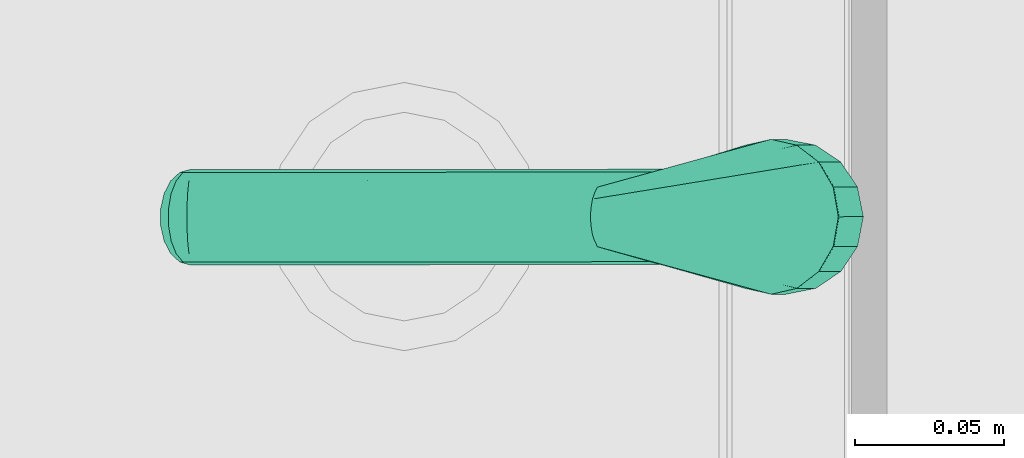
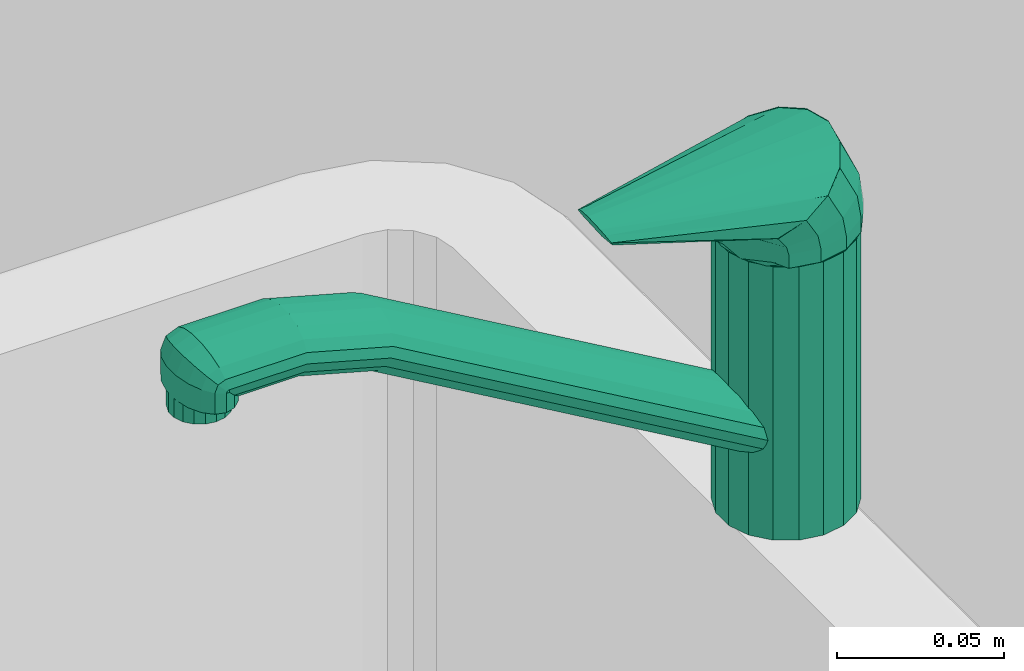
# One storey, part 116 of 194: 1 flow terminal.
"""IFC2X3 building model written with IfcOpenShell, lengths in millimetres."""

import ifcopenshell
import ifcopenshell.guid

model = None  # the IFC model being written
_history = None  # IfcOwnerHistory: only IFC2X3 demands one
_inside = {}  # id of a spatial element -> (the spatial element, [elements in it])
_under = {}  # id of a project, library or spatial element -> (it, [spatial elements below it])
_declared = {}  # id of a project -> (the project, [libraries it declares])
_typed = {}  # id of a type object -> (the type object, [elements of that type])
_made_of = {}  # id of a material, layer set ... -> (it, [elements and type objects made of it])


def new_model(schema):
    """Start an empty IFC model of exactly this schema.

    Asked for "IFC4X3", IfcOpenShell would pick the latest addendum, in which some entities
    have other attributes; the version numbers below select the first issue.
    IFC2X3 requires an IfcOwnerHistory on every rooted entity: one is made here for all.
    """
    global model, _history
    if schema == "IFC4X3":
        model = ifcopenshell.file(schema_version=(4, 3, 0, 0))
    else:
        model = ifcopenshell.file(schema=schema)
    _inside.clear()
    _under.clear()
    _declared.clear()
    _typed.clear()
    _made_of.clear()
    _history = None
    if model.schema == "IFC2X3":
        org = make("IfcOrganization", Name="unknown")
        user = make(
            "IfcPersonAndOrganization",
            ThePerson=make("IfcPerson", FamilyName="unknown"),
            TheOrganization=org,
        )
        app = make(
            "IfcApplication",
            ApplicationDeveloper=org,
            Version="unknown",
            ApplicationFullName="unknown",
            ApplicationIdentifier="unknown",
        )
        _history = make(
            "IfcOwnerHistory",
            OwningUser=user,
            OwningApplication=app,
            ChangeAction="ADDED",
            CreationDate=0,
        )
    return model


def make(cls, **values):
    """One entity of the class cls with the attributes given. An attribute that is None is left unset."""
    return model.create_entity(
        cls, **{name: value for name, value in values.items() if value is not None}
    )


def entity(cls, *values):
    """Any entity or typed value of the class cls, its attributes in the order of the schema. None: left unset."""
    e = model.create_entity(cls)
    for i, value in enumerate(values):
        if value is not None:
            e[i] = value
    return e


def rooted(cls, **values):
    """An entity with a GlobalId (a new one), such as an element, a storey or a relation."""
    return make(cls, GlobalId=ifcopenshell.guid.new(), OwnerHistory=_history, **values)


def si_unit(unit_type, name, prefix=None):
    """IfcSIUnit, for example si_unit("LENGTHUNIT", "METRE", prefix="MILLI")."""
    return make("IfcSIUnit", UnitType=unit_type, Prefix=prefix, Name=name)


def converted_unit(unit_type, name, factor, base, dimensions=None, offset=None):
    """IfcConversionBasedUnit, such as the inch: factor (a typed value) times the base unit."""
    return make(
        "IfcConversionBasedUnit"
        if offset is None
        else "IfcConversionBasedUnitWithOffset",
        ConversionOffset=offset,
        Dimensions=None
        if dimensions is None
        else entity("IfcDimensionalExponents", *dimensions),
        UnitType=unit_type,
        Name=name,
        ConversionFactor=make(
            "IfcMeasureWithUnit", ValueComponent=factor, UnitComponent=base
        ),
    )


def derived_unit(unit_type, elements):
    """IfcDerivedUnit: a product of units, each with its exponent."""
    return make(
        "IfcDerivedUnit",
        Elements=[
            make("IfcDerivedUnitElement", Unit=unit, Exponent=power)
            for unit, power in elements
        ],
        UnitType=unit_type,
    )


def money_unit(currency):
    """IfcMonetaryUnit."""
    return make("IfcMonetaryUnit", Currency=currency)


def assignment(units):
    """IfcUnitAssignment: the units of a project."""
    return None if units is None else make("IfcUnitAssignment", Units=units)


def point(xyz):
    """IfcCartesianPoint."""
    return None if xyz is None else make("IfcCartesianPoint", Coordinates=xyz)


def direction(xyz):
    """IfcDirection."""
    return None if xyz is None else make("IfcDirection", DirectionRatios=xyz)


def frame(location, z_axis=None, x_axis=None):
    """IfcAxis2Placement3D, a coordinate frame: its origin and axes. An axis left out is left unset."""
    return make(
        "IfcAxis2Placement3D",
        Location=point(location),
        Axis=direction(z_axis),
        RefDirection=direction(x_axis),
    )


def origin_with_axes():
    """The frame at (0, 0, 0) with the z axis (0, 0, 1) and the x axis (1, 0, 0) written out."""
    return frame((0.0, 0.0, 0.0), z_axis=(0.0, 0.0, 1.0), x_axis=(1.0, 0.0, 0.0))


def place(relative_to, where):
    """IfcLocalPlacement: puts the frame where relative to a parent placement (None: the world)."""
    return make(
        "IfcLocalPlacement", PlacementRelTo=relative_to, RelativePlacement=where
    )


def context(
    kind, dimensions, precision=None, world=None, true_north=None, identifier=None
):
    """IfcGeometricRepresentationContext, for example the 3D "Model" context."""
    return make(
        "IfcGeometricRepresentationContext",
        ContextIdentifier=identifier,
        ContextType=kind,
        CoordinateSpaceDimension=dimensions,
        Precision=precision,
        WorldCoordinateSystem=world,
        TrueNorth=true_north,
    )


def subcontext(parent, identifier, kind, view, scale=None):
    """IfcGeometricRepresentationSubContext, for example "Body" below "Model"."""
    return make(
        "IfcGeometricRepresentationSubContext",
        ContextIdentifier=identifier,
        ContextType=kind,
        ParentContext=parent,
        TargetScale=scale,
        TargetView=view,
    )


def project(units=None, contexts=None):
    """IfcProject with its units and contexts."""
    return rooted(
        "IfcProject",
        Name="project",
        RepresentationContexts=contexts,
        UnitsInContext=assignment(units),
    )


def spatial(cls, under=None, at=None, **own):
    """A site, building, storey or space (cls), placed at a placement, below another one or the project."""
    s = rooted(cls, ObjectPlacement=at, **own)
    if under is not None:
        _under.setdefault(under.id(), (under, []))[1].append(s)
    return s


def faces_of(points, faces, orient=None, outer=None):
    """IfcFace entities. A face is a list of loops; a loop is a list of indices into points, from 0.

    orient and outer hold one flag for each loop. By default every Orientation is true, the
    first loop of a face is its IfcFaceOuterBound and the others are IfcFaceBound.
    """
    made = []
    for i, loops in enumerate(faces):
        bounds = []
        for j, loop in enumerate(loops):
            is_outer = j == 0 if outer is None else outer[i][j]
            bounds.append(
                make(
                    "IfcFaceOuterBound" if is_outer else "IfcFaceBound",
                    Bound=make("IfcPolyLoop", Polygon=[points[k] for k in loop]),
                    Orientation=True if orient is None else orient[i][j],
                )
            )
        made.append(make("IfcFace", Bounds=bounds))
    return made


def open_shell(faces, orient=None, outer=None):
    """The faces of one IfcOpenShell. surface_model builds it on its shared points."""
    return ("IfcOpenShell", faces, orient, outer)


def faceted_brep(points, faces, orient=None, outer=None, voids=None):
    """IfcFacetedBrep: a solid bounded by flat faces; with voids (closed shells), ...WithVoids."""
    shared = [point(p) for p in points]
    hull = make("IfcClosedShell", CfsFaces=faces_of(shared, faces, orient, outer))
    if voids is None:
        return make("IfcFacetedBrep", Outer=hull)
    return make(
        "IfcFacetedBrepWithVoids",
        Outer=hull,
        Voids=[
            make(cls, CfsFaces=faces_of(shared, fs, o, b)) for cls, fs, o, b in voids
        ],
    )


def surface_model(cls, points, shells):
    """IfcFaceBasedSurfaceModel or IfcShellBasedSurfaceModel (cls): surfaces that need not close."""
    shared = [point(p) for p in points]
    made = [make(c, CfsFaces=faces_of(shared, fs, o, b)) for c, fs, o, b in shells]
    if cls == "IfcFaceBasedSurfaceModel":
        return make(cls, FbsmFaces=made)
    return make(cls, SbsmBoundary=made)


def shape(context_of_items, identifier, shape_type, items):
    """IfcShapeRepresentation: the items that make up one representation, for example the "Body"."""
    return make(
        "IfcShapeRepresentation",
        ContextOfItems=context_of_items,
        RepresentationIdentifier=identifier,
        RepresentationType=shape_type,
        Items=items,
    )


def source(mapping_origin, context_of_items, identifier, shape_type, items):
    """IfcRepresentationMap: a shape defined once, which mapped items show again and again."""
    return make(
        "IfcRepresentationMap",
        MappingOrigin=mapping_origin,
        MappedRepresentation=shape(context_of_items, identifier, shape_type, items),
    )


def transform(
    local_origin,
    x_axis=None,
    y_axis=None,
    z_axis=None,
    scale=None,
    scale2=None,
    scale3=None,
    uniform=True,
):
    """IfcCartesianTransformationOperator3D, or its non-uniform kind. x_axis, y_axis, z_axis: its Axis1, 2, 3."""
    if uniform:
        return make(
            "IfcCartesianTransformationOperator3D",
            Axis1=direction(x_axis),
            Axis2=direction(y_axis),
            LocalOrigin=point(local_origin),
            Scale=scale,
            Axis3=direction(z_axis),
        )
    return make(
        "IfcCartesianTransformationOperator3DnonUniform",
        Axis1=direction(x_axis),
        Axis2=direction(y_axis),
        LocalOrigin=point(local_origin),
        Scale=scale,
        Axis3=direction(z_axis),
        Scale2=scale2,
        Scale3=scale3,
    )


def mapped(mapping_source, mapping_target):
    """IfcMappedItem: shows the shape of a source again, moved by a transform."""
    return make(
        "IfcMappedItem", MappingSource=mapping_source, MappingTarget=mapping_target
    )


def made_of(thing, what):
    """Note that an element or type object is made of a material, layer set ...; save() writes the relation."""
    if what is not None:
        _made_of.setdefault(what.id(), (what, []))[1].append(thing)
    return thing


def type_object(cls, material=None, **own):
    """A type object (cls), such as IfcWallType, which elements share."""
    return made_of(rooted(cls, **own), material)


def element(
    cls,
    number,
    at=None,
    inside=None,
    cuts=None,
    type_object=None,
    material=None,
    context=None,
    identifier="Body",
    shape_type=None,
    held_by="IfcProductDefinitionShape",
    body=None,
    shapes=None,
    **own,
):
    """One element of the class cls, such as IfcWall. Its Tag is "e" and its number.

    at: its placement. inside: the storey or other place that contains it. cuts: it is an
    opening in that element (IfcRelVoidsElement). A single representation is given by context,
    identifier, shape_type and body (its items); several are given by shapes. held_by: the class
    of the entity that holds the representations. save() writes the other relations.
    """
    e = rooted(cls, Tag="e%d" % number, ObjectPlacement=at, **own)
    if body is not None:
        shapes = [shape(context, identifier, shape_type, body)]
    if shapes is not None:
        e.Representation = make(held_by, Representations=shapes)
    if inside is not None:
        _inside.setdefault(inside.id(), (inside, []))[1].append(e)
    if cuts is not None:
        rooted(
            "IfcRelVoidsElement", RelatingBuildingElement=cuts, RelatedOpeningElement=e
        )
    if type_object is not None:
        _typed.setdefault(type_object.id(), (type_object, []))[1].append(e)
    return made_of(e, material)


def aggregate(whole, parts):
    """IfcRelAggregates: a whole, such as a stair, and the parts it consists of."""
    return rooted("IfcRelAggregates", RelatingObject=whole, RelatedObjects=parts)


def save(model, path):
    """Write the relations noted so far, then the file.

    IfcRelAggregates (storeys below a building ...), IfcRelContainedInSpatialStructure (elements
    in a storey), IfcRelDefinesByType, IfcRelAssociatesMaterial and IfcRelDeclares: one each for
    every whole, place, type object, material and project.
    """
    for whole, parts in _under.values():
        aggregate(whole, parts)
    for where, things in _inside.values():
        rooted(
            "IfcRelContainedInSpatialStructure",
            RelatedElements=things,
            RelatingStructure=where,
        )
    for kind, things in _typed.values():
        rooted("IfcRelDefinesByType", RelatedObjects=things, RelatingType=kind)
    for what, things in _made_of.values():
        rooted("IfcRelAssociatesMaterial", RelatedObjects=things, RelatingMaterial=what)
    for by, libraries in _declared.values():
        rooted("IfcRelDeclares", RelatingContext=by, RelatedDefinitions=libraries)
    model.write(path)


model = new_model("IFC2X3")

# Units and contexts
model_context = context("Model", 3, precision=1e-05, world=origin_with_axes(), true_north=direction((0.0, 1.0)))
body_context = subcontext(model_context, "Body", "Model", "MODEL_VIEW")
ifc_project = project(units=[si_unit("LENGTHUNIT", "METRE", prefix="MILLI"), si_unit("AREAUNIT", "SQUARE_METRE"), si_unit("VOLUMEUNIT", "CUBIC_METRE"), converted_unit("PLANEANGLEUNIT", "DEGREE", entity("IfcPlaneAngleMeasure", 0.0174532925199), si_unit("PLANEANGLEUNIT", "RADIAN"), dimensions=[0, 0, 0, 0, 0, 0, 0]), si_unit("SOLIDANGLEUNIT", "STERADIAN"), money_unit("EUR"), converted_unit("TIMEUNIT", "Year", entity("IfcTimeMeasure", 31556926.0), si_unit("TIMEUNIT", "SECOND"), dimensions=[0, 0, 1, 0, 0, 0, 0]), si_unit("MASSUNIT", "GRAM", prefix="KILO"), si_unit("THERMODYNAMICTEMPERATUREUNIT", "DEGREE_CELSIUS"), si_unit("LUMINOUSINTENSITYUNIT", "LUMEN"), si_unit("ENERGYUNIT", "JOULE", prefix="MEGA"), derived_unit("THERMALCONDUCTANCEUNIT", [(si_unit("POWERUNIT", "WATT"), 1), (si_unit("LENGTHUNIT", "METRE"), -1), (si_unit("THERMODYNAMICTEMPERATUREUNIT", "KELVIN"), -1)]), derived_unit("SPECIFICHEATCAPACITYUNIT", [(si_unit("ENERGYUNIT", "JOULE"), 1), (si_unit("MASSUNIT", "GRAM", prefix="KILO"), -1), (si_unit("THERMODYNAMICTEMPERATUREUNIT", "KELVIN"), -1)]), derived_unit("MASSDENSITYUNIT", [(si_unit("MASSUNIT", "GRAM", prefix="KILO"), 1), (si_unit("VOLUMEUNIT", "CUBIC_METRE"), -1)])], contexts=[model_context])

# Site, building, storey
site_placement = place(None, origin_with_axes())
site = spatial("IfcSite", under=ifc_project, at=site_placement, Name="Site", CompositionType="ELEMENT")
building_placement = place(site_placement, origin_with_axes())
building = spatial("IfcBuilding", under=site, at=building_placement, Name="Building", CompositionType="ELEMENT")
storey_placement = place(building_placement, frame((0.0, 0.0, 3000.0), z_axis=(0.0, 0.0, 1.0), x_axis=(1.0, 0.0, 0.0)))
storey = spatial("IfcBuildingStorey", under=building, at=storey_placement, Name="2 KORRUS", CompositionType="ELEMENT", Elevation=3000.0)

# Flow terminal
sanitary_terminal_type = type_object("IfcSanitaryTerminalType", Name="Tap 22", PredefinedType="NOTDEFINED")
shared_shape = source(origin_with_axes(), body_context, "Body", "SurfaceModel", [
    faceted_brep([(21.1430839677, -7.69545322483, 1000.0), (17.2359999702, -14.4627212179, 1000.0), (11.25, -19.4855715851, 1000.0), (3.90708399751, -22.1581744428, 1000.0), (-3.90708399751, -22.1581744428, 1000.0), (-11.25, -19.4855715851, 1000.0), (-17.2359999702, -14.4627212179, 1000.0), (-21.1430839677, -7.69545322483, 1000.0), (-22.5, 0.0, 1000.0), (-21.1430839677, 7.69545322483, 1000.0), (-17.2359999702, 14.4627212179, 1000.0), (-11.25, 19.4855715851, 1000.0), (-3.90708399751, 22.1581744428, 1000.0), (3.90708399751, 22.1581744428, 1000.0), (11.25, 19.4855715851, 1000.0), (17.2359999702, 14.4627212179, 1000.0), (21.1430839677, 7.69545322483, 1000.0), (22.5, 0.0, 1000.0), (21.1430839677, -7.69545322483, 1010.0), (17.2359999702, -14.4627212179, 1010.0), (11.25, -19.4855715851, 1010.0), (3.90708399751, -22.1581744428, 1010.0), (-3.90708399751, -22.1581744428, 1010.0), (-11.25, -19.4855715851, 1010.0), (-17.2359999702, -14.4627212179, 1010.0), (-21.1430839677, -7.69545322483, 1010.0), (-22.5, 0.0, 1010.0), (-21.1430839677, 7.69545322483, 1010.0), (-17.2359999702, 14.4627212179, 1010.0), (-11.25, 19.4855715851, 1010.0), (-3.90708399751, 22.1581744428, 1010.0), (3.90708399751, 22.1581744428, 1010.0), (11.25, 19.4855715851, 1010.0), (17.2359999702, 14.4627212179, 1010.0), (21.1430839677, 7.69545322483, 1010.0), (22.5, 0.0, 1010.0)], [[[0, 1, 2, 3, 4, 5, 6, 7, 8, 9, 10, 11, 12, 13, 14, 15, 16, 17]], [[1, 0, 18, 19]], [[2, 1, 19, 20]], [[3, 2, 20, 21]], [[4, 3, 21, 22]], [[5, 4, 22, 23]], [[6, 5, 23, 24]], [[7, 6, 24, 25]], [[8, 7, 25, 26]], [[9, 8, 26, 27]], [[10, 9, 27, 28]], [[11, 10, 28, 29]], [[12, 11, 29, 30]], [[13, 12, 30, 31]], [[14, 13, 31, 32]], [[15, 14, 32, 33]], [[16, 15, 33, 34]], [[17, 16, 34, 35]], [[0, 17, 35, 18]], [[18, 35, 34, 33, 32, 31, 30, 29, 28, 27, 26, 25, 24, 23, 22, 21, 20, 19]]]),
    faceted_brep([(21.1430839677, -7.69545322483, 1010.0), (17.2359999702, -14.4627212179, 1010.0), (11.25, -19.4855715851, 1010.0), (3.90708399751, -22.1581744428, 1010.0), (-3.90708399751, -22.1581744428, 1010.0), (-11.25, -19.4855715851, 1010.0), (-17.2359999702, -14.4627212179, 1010.0), (-21.1430839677, -7.69545322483, 1010.0), (-22.5, 0.0, 1010.0), (-21.1430839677, 7.69545322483, 1010.0), (-17.2359999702, 14.4627212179, 1010.0), (-11.25, 19.4855715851, 1010.0), (-3.90708399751, 22.1581744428, 1010.0), (3.90708399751, 22.1581744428, 1010.0), (11.25, 19.4855715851, 1010.0), (17.2359999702, 14.4627212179, 1010.0), (21.1430839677, 7.69545322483, 1010.0), (22.5, 0.0, 1010.0), (21.1430839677, -7.69545322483, 1055.0), (17.2359999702, -14.4627212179, 1055.0), (11.25, -19.4855715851, 1055.0), (3.90708399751, -22.1581744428, 1055.0), (-3.90708399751, -22.1581744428, 1055.0), (-11.25, -19.4855715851, 1055.0), (-17.2359999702, -14.4627212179, 1055.0), (-21.1430839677, -7.69545322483, 1055.0), (-22.5, 0.0, 1055.0), (-21.1430839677, 7.69545322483, 1055.0), (-17.2359999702, 14.4627212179, 1055.0), (-11.25, 19.4855715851, 1055.0), (-3.90708399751, 22.1581744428, 1055.0), (3.90708399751, 22.1581744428, 1055.0), (11.25, 19.4855715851, 1055.0), (17.2359999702, 14.4627212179, 1055.0), (21.1430839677, 7.69545322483, 1055.0), (22.5, 0.0, 1055.0)], [[[0, 1, 2, 3, 4, 5, 6, 7, 8, 9, 10, 11, 12, 13, 14, 15, 16, 17]], [[1, 0, 18, 19]], [[2, 1, 19, 20]], [[3, 2, 20, 21]], [[4, 3, 21, 22]], [[5, 4, 22, 23]], [[6, 5, 23, 24]], [[7, 6, 24, 25]], [[8, 7, 25, 26]], [[9, 8, 26, 27]], [[10, 9, 27, 28]], [[11, 10, 28, 29]], [[12, 11, 29, 30]], [[13, 12, 30, 31]], [[14, 13, 31, 32]], [[15, 14, 32, 33]], [[16, 15, 33, 34]], [[17, 16, 34, 35]], [[0, 17, 35, 18]], [[18, 35, 34, 33, 32, 31, 30, 29, 28, 27, 26, 25, 24, 23, 22, 21, 20, 19]]]),
    faceted_brep([(21.1430839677, -7.69545322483, 1055.0), (17.2359999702, -14.4627212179, 1055.0), (11.25, -19.4855715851, 1055.0), (3.90708399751, -22.1581744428, 1055.0), (-3.90708399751, -22.1581744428, 1055.0), (-11.25, -19.4855715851, 1055.0), (-17.2359999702, -14.4627212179, 1055.0), (-21.1430839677, -7.69545322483, 1055.0), (-22.5, 0.0, 1055.0), (-21.1430839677, 7.69545322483, 1055.0), (-17.2359999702, 14.4627212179, 1055.0), (-11.25, 19.4855715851, 1055.0), (-3.90708399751, 22.1581744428, 1055.0), (3.90708399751, 22.1581744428, 1055.0), (11.25, 19.4855715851, 1055.0), (17.2359999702, 14.4627212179, 1055.0), (21.1430839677, 7.69545322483, 1055.0), (22.5, 0.0, 1055.0), (21.1430839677, -7.69545322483, 1100.0), (17.2359999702, -14.4627212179, 1100.0), (11.25, -19.4855715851, 1100.0), (3.90708399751, -22.1581744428, 1100.0), (-3.90708399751, -22.1581744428, 1100.0), (-11.25, -19.4855715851, 1100.0), (-17.2359999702, -14.4627212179, 1100.0), (-21.1430839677, -7.69545322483, 1100.0), (-22.5, 0.0, 1100.0), (-21.1430839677, 7.69545322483, 1100.0), (-17.2359999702, 14.4627212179, 1100.0), (-11.25, 19.4855715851, 1100.0), (-3.90708399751, 22.1581744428, 1100.0), (3.90708399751, 22.1581744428, 1100.0), (11.25, 19.4855715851, 1100.0), (17.2359999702, 14.4627212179, 1100.0), (21.1430839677, 7.69545322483, 1100.0), (22.5, 0.0, 1100.0)], [[[0, 1, 2, 3, 4, 5, 6, 7, 8, 9, 10, 11, 12, 13, 14, 15, 16, 17]], [[1, 0, 18, 19]], [[2, 1, 19, 20]], [[3, 2, 20, 21]], [[4, 3, 21, 22]], [[5, 4, 22, 23]], [[6, 5, 23, 24]], [[7, 6, 24, 25]], [[8, 7, 25, 26]], [[9, 8, 26, 27]], [[10, 9, 27, 28]], [[11, 10, 28, 29]], [[12, 11, 29, 30]], [[13, 12, 30, 31]], [[14, 13, 31, 32]], [[15, 14, 32, 33]], [[16, 15, 33, 34]], [[17, 16, 34, 35]], [[0, 17, 35, 18]], [[18, 35, 34, 33, 32, 31, 30, 29, 28, 27, 26, 25, 24, 23, 22, 21, 20, 19]]]),
    surface_model("IfcShellBasedSurfaceModel", [(20.7872894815, -8.61037722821, 1100.0), (22.5, 0.0, 1100.0), (26.0, -3.0, 1104.5), (24.0208678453, -12.9497692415, 1104.5), (20.7872894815, 8.61037722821, 1100.0), (24.0208678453, 6.94976924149, 1104.5), (15.9099025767, -15.9099025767, 1100.0), (24.0208678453, -12.9497692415, 1104.5), (15.9099025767, 15.9099025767, 1100.0), (18.3847763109, 15.3847763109, 1104.5), (8.61037722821, -20.7872894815, 1100.0), (8.61037722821, 20.7872894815, 1100.0), (9.94976924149, 21.0208678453, 1104.5), (0.0, -25.1, 1104.5), (0.0, 22.5, 1100.0), (0.0, 23.0, 1104.5), (0.0, -22.5, 1100.0), (-8.61037722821, 20.7872894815, 1100.0), (-9.94976924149, 21.0208678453, 1104.5), (-8.61037722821, -20.7872894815, 1100.0), (-15.9099025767, 15.9099025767, 1100.0), (-18.3847763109, 15.3847763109, 1104.5), (-15.9099025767, -15.9099025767, 1100.0), (-20.7872894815, 8.61037722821, 1100.0), (-24.0208678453, 6.94976924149, 1104.5), (-24.0208678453, -12.9497692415, 1104.5), (-22.5, 0.0, 1100.0), (-26.0, -3.0, 1104.5), (-20.7872894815, -8.61037722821, 1100.0)], [open_shell([[[0, 1, 2, 3]], [[1, 4, 5, 2]], [[6, 0, 3, 7]], [[4, 8, 9, 5]], [[10, 6, 7]], [[8, 11, 12, 9]], [[10, 7, 13]], [[11, 14, 15, 12]], [[16, 10, 13]], [[14, 17, 18, 15]], [[19, 16, 13]], [[17, 20, 21, 18]], [[22, 19, 13]], [[20, 23, 24, 21]], [[22, 13, 25]], [[23, 26, 27, 24]], [[28, 22, 25]], [[26, 28, 25, 27]]])]),
    surface_model("IfcShellBasedSurfaceModel", [(24.0208678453, -12.9497692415, 1103.0), (26.0, -3.0, 1108.0), (24.0208678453, -12.9497692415, 1108.0), (26.0, -3.0, 1103.0), (26.0, -4.0, 1113.0), (24.0208678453, -12.9497692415, 1103.0), (24.0208678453, 6.94976924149, 1108.0), (24.0208678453, -13.7565514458, 1111.04868971), (24.0208678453, 5.75655144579, 1114.95131029), (24.0208678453, -12.9497692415, 1108.0), (24.0208678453, 6.94976924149, 1103.0), (26.0, -8.0, 1120.0), (24.0208678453, 0.638818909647, 1124.93646795), (0.0, -25.1, 1103.0), (18.3847763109, 15.3847763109, 1108.0), (18.3847763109, 14.0277563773, 1116.60555128), (24.0208678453, -16.6388189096, 1115.06353205), (24.0208678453, -13.7565514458, 1111.04868971), (18.3847763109, 7.96245595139, 1129.1214034), (0.0, -25.1, 1108.0), (18.3847763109, 15.3847763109, 1103.0), (-24.0208678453, -12.9497692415, 1103.0), (9.94976924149, 21.0208678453, 1108.0), (9.94976924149, 19.5543988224, 1117.71087976), (9.94976924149, 12.8559537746, 1131.91768787), (24.0208678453, -16.6388189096, 1115.06353205), (0.0, -25.6708329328, 1108.66583341), (-24.0208678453, -12.9497692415, 1108.0), (9.94976924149, 21.0208678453, 1103.0), (-26.0, -3.0, 1103.0), (0.0, 23.0, 1108.0), (0.0, 21.495097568, 1118.09901951), (0.0, 14.5743216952, 1132.8996124), (0.0, -27.188173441, 1109.03532946), (-24.0208678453, -13.7565514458, 1111.04868971), (-26.0, -3.0, 1108.0), (0.0, 23.0, 1103.0), (-24.0208678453, 6.94976924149, 1103.0), (-9.94976924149, 21.0208678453, 1108.0), (-9.94976924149, 19.5543988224, 1117.71087976), (-9.94976924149, 12.8559537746, 1131.91768787), (-24.0208678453, -16.6388189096, 1115.06353205), (-26.0, -4.0, 1113.0), (-24.0208678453, 6.94976924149, 1108.0), (-9.94976924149, 21.0208678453, 1103.0), (-18.3847763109, 15.3847763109, 1103.0), (-18.3847763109, 15.3847763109, 1108.0), (-18.3847763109, 14.0277563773, 1116.60555128), (-18.3847763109, 7.96245595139, 1129.1214034), (-26.0, -8.0, 1120.0), (-24.0208678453, 5.75655144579, 1114.95131029), (-24.0208678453, 0.638818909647, 1124.93646795)], [open_shell([[[0, 1, 2]], [[1, 0, 3]], [[4, 2, 1]], [[2, 5, 0]], [[3, 6, 1]], [[2, 4, 7]], [[1, 8, 4]], [[5, 2, 9]], [[6, 3, 10]], [[8, 1, 6]], [[11, 7, 4]], [[7, 9, 2]], [[12, 4, 8]], [[9, 13, 5]], [[10, 14, 6]], [[6, 15, 8]], [[7, 11, 16]], [[4, 12, 11]], [[9, 7, 17]], [[8, 18, 12]], [[13, 9, 19]], [[14, 10, 20]], [[15, 6, 14]], [[18, 8, 15]], [[16, 17, 7]], [[17, 19, 9]], [[19, 21, 13]], [[20, 22, 14]], [[14, 23, 15]], [[15, 24, 18]], [[17, 16, 25]], [[19, 17, 26]], [[21, 19, 27]], [[22, 20, 28]], [[23, 14, 22]], [[24, 15, 23]], [[25, 26, 17]], [[26, 27, 19]], [[27, 29, 21]], [[28, 30, 22]], [[22, 31, 23]], [[23, 32, 24]], [[26, 25, 33]], [[27, 26, 34]], [[29, 27, 35]], [[30, 28, 36]], [[31, 22, 30]], [[32, 23, 31]], [[33, 34, 26]], [[34, 35, 27]], [[35, 37, 29]], [[36, 38, 30]], [[30, 39, 31]], [[31, 40, 32]], [[34, 33, 41]], [[35, 34, 42]], [[37, 35, 43]], [[38, 36, 44]], [[39, 30, 38]], [[40, 31, 39]], [[41, 42, 34]], [[42, 43, 35]], [[43, 45, 37]], [[44, 46, 38]], [[38, 47, 39]], [[39, 48, 40]], [[42, 41, 49]], [[43, 42, 50]], [[45, 43, 46]], [[46, 44, 45]], [[47, 38, 46]], [[48, 39, 47]], [[49, 50, 42]], [[50, 46, 43]], [[46, 50, 47]], [[47, 51, 48]], [[50, 49, 51]], [[51, 47, 50]]])]),
    surface_model("IfcShellBasedSurfaceModel", [(24.0208678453, -16.7440274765, 1115.25238044), (26.0, -8.0, 1120.0), (10.0, -66.2556184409, 1122.50657537), (8.0, -67.2099359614, 1124.26420959), (9.0, -65.3013009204, 1120.74894114), (24.0208678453, 0.744027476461, 1124.74761956), (6.0, -67.9256741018, 1125.58243526), (3.0, -68.4028328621, 1126.46125237), (0.0, -68.6414122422, 1126.90066093), (-3.0, -68.4028328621, 1126.46125237), (-6.0, -67.9256741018, 1125.58243526), (-8.0, -67.2099359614, 1124.26420959), (-10.0, -66.2556184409, 1122.50657537), (-9.0, -65.3013009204, 1120.74894114), (0.0, -63.8698246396, 1118.1124898), (0.0, -27.4218581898, 1109.4547914), (18.3847763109, 8.15685603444, 1128.77245707), (9.94976924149, 13.1099497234, 1131.46176752), (0.0, 14.8492449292, 1132.40612777), (-9.94976924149, 13.1099497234, 1131.46176752), (-18.3847763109, 8.15685603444, 1128.77245707), (-24.0208678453, 0.744027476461, 1124.74761956), (-26.0, -8.0, 1120.0), (-24.0208678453, -16.7440274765, 1115.25238044)], [open_shell([[[0, 1, 2]], [[1, 3, 2]], [[0, 2, 4]], [[1, 5, 3]], [[4, 2, 3, 6, 7, 8, 9, 10, 11, 12, 13, 14]], [[15, 0, 4]], [[5, 6, 3]], [[16, 7, 6]], [[17, 8, 7]], [[18, 9, 8]], [[19, 10, 9]], [[20, 11, 10]], [[21, 12, 11]], [[22, 13, 12]], [[23, 14, 13]], [[15, 4, 14]], [[5, 16, 6]], [[16, 17, 7]], [[17, 18, 8]], [[18, 19, 9]], [[19, 20, 10]], [[20, 21, 11]], [[21, 22, 12]], [[22, 23, 13]], [[23, 15, 14]]])]),
    surface_model("IfcShellBasedSurfaceModel", [(16.0, -15.0, 1035.8), (15.0350819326, -13.350271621, 1038.79711945), (15.0350819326, -144.663324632, 1115.17921593), (16.0, -146.0, 1112.0), (12.2567110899, -11.8995248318, 1041.43274206), (12.2567110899, -143.487872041, 1117.97497151), (15.0350819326, -174.536897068, 1123.42020143), (16.0, -175.0, 1120.0), (15.0350819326, -16.649728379, 1032.80288055), (15.0350819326, -147.336675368, 1108.82078407), (8.0, -10.8227411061, 1043.38897285), (8.0, -142.615419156, 1120.05005733), (12.2567110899, -174.129651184, 1126.4278761), (15.0350819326, -202.702022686, 1123.42020143), (16.0, -202.0, 1120.0), (15.0350819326, -175.463102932, 1116.57979857), (12.2567110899, -18.1004751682, 1030.16725794), (12.2567110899, -148.512127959, 1106.02502849), (2.77837084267, -10.2497964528, 1044.42986151), (2.77837084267, -142.151196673, 1121.15418744), (8.0, -173.827382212, 1128.66025404), (12.2567110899, -203.319371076, 1126.4278761), (15.0350819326, -205.304747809, 1122.30474781), (16.0, -202.7, 1119.7), (15.0350819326, -201.297977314, 1116.57979857), (12.2567110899, -175.870348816, 1113.5721239), (8.0, -19.1772588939, 1028.21102715), (8.0, -149.384580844, 1103.94994267), (-2.77837084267, -10.2497964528, 1044.42986151), (-2.77837084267, -142.151196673, 1121.15418744), (2.77837084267, -173.666548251, 1129.84807753), (8.0, -203.777583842, 1128.66025404), (12.2567110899, -207.595324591, 1124.59532459), (15.0350819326, -206.420201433, 1119.70202269), (16.0, -203.0, 1119.0), (15.0350819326, -200.095252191, 1117.09525219), (12.2567110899, -200.680628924, 1113.5721239), (8.0, -176.172617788, 1111.33974596), (2.77837084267, -19.7502035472, 1027.17013849), (2.77837084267, -149.848803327, 1102.84581256), (-8.0, -10.8227411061, 1043.38897285), (-8.0, -142.615419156, 1120.05005733), (-2.77837084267, -173.666548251, 1129.84807753), (2.77837084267, -204.021393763, 1129.84807753), (8.0, -209.295452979, 1126.29545298), (12.2567110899, -209.427876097, 1120.31937108), (15.0350819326, -206.420201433, 1112.0), (16.0, -203.0, 1112.0), (15.0350819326, -199.579798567, 1118.29797731), (12.2567110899, -197.804675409, 1114.80467541), (8.0, -200.222416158, 1111.33974596), (2.77837084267, -176.333451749, 1110.15192247), (-2.77837084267, -19.7502035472, 1027.17013849), (-2.77837084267, -149.848803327, 1102.84581256), (-12.2567110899, -11.8995248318, 1041.43274206), (-12.2567110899, -143.487872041, 1117.97497151), (-8.0, -173.827382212, 1128.66025404), (-2.77837084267, -204.021393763, 1129.84807753), (2.77837084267, -210.2000724, 1127.2000724), (8.0, -211.660254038, 1120.77758384), (12.2567110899, -209.427876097, 1112.0), (8.0, -211.660254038, 1112.0), (2.77837084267, -212.84807753, 1112.0), (-2.77837084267, -212.84807753, 1112.0), (-8.0, -211.660254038, 1112.0), (-12.2567110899, -209.427876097, 1112.0), (-15.0350819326, -206.420201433, 1112.0), (-16.0, -203.0, 1112.0), (-15.0350819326, -199.579798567, 1112.0), (-12.2567110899, -196.572123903, 1112.0), (-8.0, -194.339745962, 1112.0), (-2.77837084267, -193.15192247, 1112.0), (2.77837084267, -193.15192247, 1112.0), (8.0, -194.339745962, 1112.0), (12.2567110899, -196.572123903, 1112.0), (15.0350819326, -199.579798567, 1112.0), (12.2567110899, -196.572123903, 1117.68062892), (8.0, -196.104547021, 1113.10454702), (2.77837084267, -199.978606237, 1110.15192247), (-2.77837084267, -176.333451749, 1110.15192247), (-8.0, -19.1772588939, 1028.21102715), (-8.0, -149.384580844, 1103.94994267), (-15.0350819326, -13.350271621, 1038.79711945), (-15.0350819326, -144.663324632, 1115.17921593), (-12.2567110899, -174.129651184, 1126.4278761), (-8.0, -203.777583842, 1128.66025404), (-2.77837084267, -210.2000724, 1127.2000724), (2.77837084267, -212.84807753, 1121.02139376), (-2.77837084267, -212.84807753, 1121.02139376), (-8.0, -211.660254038, 1120.77758384), (-12.2567110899, -209.427876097, 1120.31937108), (-15.0350819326, -206.420201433, 1119.70202269), (-16.0, -203.0, 1119.0), (-15.0350819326, -199.579798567, 1118.29797731), (-12.2567110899, -196.572123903, 1117.68062892), (-8.0, -194.339745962, 1117.22241616), (-2.77837084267, -193.15192247, 1116.97860624), (2.77837084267, -193.15192247, 1116.97860624), (8.0, -194.339745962, 1117.22241616), (2.77837084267, -195.1999276, 1112.1999276), (-2.77837084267, -199.978606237, 1110.15192247), (-8.0, -176.172617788, 1111.33974596), (-12.2567110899, -18.1004751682, 1030.16725794), (-12.2567110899, -148.512127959, 1106.02502849), (-16.0, -15.0, 1035.8), (-16.0, -146.0, 1112.0), (-15.0350819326, -174.536897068, 1123.42020143), (-12.2567110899, -203.319371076, 1126.4278761), (-8.0, -209.295452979, 1126.29545298), (-12.2567110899, -207.595324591, 1124.59532459), (-15.0350819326, -205.304747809, 1122.30474781), (-16.0, -202.7, 1119.7), (-15.0350819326, -200.095252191, 1117.09525219), (-12.2567110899, -197.804675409, 1114.80467541), (-8.0, -196.104547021, 1113.10454702), (-2.77837084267, -195.1999276, 1112.1999276), (-8.0, -200.222416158, 1111.33974596), (-12.2567110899, -175.870348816, 1113.5721239), (-15.0350819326, -16.649728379, 1032.80288055), (-15.0350819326, -147.336675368, 1108.82078407), (-16.0, -175.0, 1120.0), (-15.0350819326, -202.702022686, 1123.42020143), (-16.0, -202.0, 1120.0), (-15.0350819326, -201.297977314, 1116.57979857), (-12.2567110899, -200.680628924, 1113.5721239), (-15.0350819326, -175.463102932, 1116.57979857)], [open_shell([[[0, 1, 2, 3]], [[1, 4, 5, 2]], [[3, 2, 6, 7]], [[8, 0, 3, 9]], [[4, 10, 11, 5]], [[2, 5, 12, 6]], [[7, 6, 13, 14]], [[9, 3, 7, 15]], [[16, 8, 9, 17]], [[10, 18, 19, 11]], [[5, 11, 20, 12]], [[6, 12, 21, 13]], [[14, 13, 22, 23]], [[15, 7, 14, 24]], [[17, 9, 15, 25]], [[26, 16, 17, 27]], [[18, 28, 29, 19]], [[11, 19, 30, 20]], [[12, 20, 31, 21]], [[13, 21, 32, 22]], [[23, 22, 33, 34]], [[24, 14, 23, 35]], [[25, 15, 24, 36]], [[27, 17, 25, 37]], [[38, 26, 27, 39]], [[28, 40, 41, 29]], [[19, 29, 42, 30]], [[20, 30, 43, 31]], [[21, 31, 44, 32]], [[22, 32, 45, 33]], [[34, 33, 46, 47]], [[35, 23, 34, 48]], [[36, 24, 35, 49]], [[37, 25, 36, 50]], [[39, 27, 37, 51]], [[52, 38, 39, 53]], [[40, 54, 55, 41]], [[29, 41, 56, 42]], [[30, 42, 57, 43]], [[31, 43, 58, 44]], [[32, 44, 59, 45]], [[33, 45, 60, 46]], [[47, 46, 60, 61, 62, 63, 64, 65, 66, 67, 68, 69, 70, 71, 72, 73, 74, 75]], [[48, 34, 47, 75]], [[49, 35, 48, 76]], [[50, 36, 49, 77]], [[51, 37, 50, 78]], [[53, 39, 51, 79]], [[80, 52, 53, 81]], [[54, 82, 83, 55]], [[41, 55, 84, 56]], [[42, 56, 85, 57]], [[43, 57, 86, 58]], [[44, 58, 87, 59]], [[45, 59, 61, 60]], [[59, 87, 62, 61]], [[87, 88, 63, 62]], [[88, 89, 64, 63]], [[89, 90, 65, 64]], [[90, 91, 66, 65]], [[91, 92, 67, 66]], [[92, 93, 68, 67]], [[93, 94, 69, 68]], [[94, 95, 70, 69]], [[95, 96, 71, 70]], [[96, 97, 72, 71]], [[97, 98, 73, 72]], [[98, 76, 74, 73]], [[76, 48, 75, 74]], [[77, 49, 76, 98]], [[78, 50, 77, 99]], [[79, 51, 78, 100]], [[81, 53, 79, 101]], [[102, 80, 81, 103]], [[82, 104, 105, 83]], [[55, 83, 106, 84]], [[56, 84, 107, 85]], [[57, 85, 108, 86]], [[58, 86, 88, 87]], [[86, 108, 89, 88]], [[108, 109, 90, 89]], [[109, 110, 91, 90]], [[110, 111, 92, 91]], [[111, 112, 93, 92]], [[112, 113, 94, 93]], [[113, 114, 95, 94]], [[114, 115, 96, 95]], [[115, 99, 97, 96]], [[99, 77, 98, 97]], [[100, 78, 99, 115]], [[101, 79, 100, 116]], [[103, 81, 101, 117]], [[118, 102, 103, 119]], [[104, 118, 119, 105]], [[83, 105, 120, 106]], [[84, 106, 121, 107]], [[85, 107, 109, 108]], [[107, 121, 110, 109]], [[121, 122, 111, 110]], [[122, 123, 112, 111]], [[123, 124, 113, 112]], [[124, 116, 114, 113]], [[116, 100, 115, 114]], [[117, 101, 116, 124]], [[119, 103, 117, 125]], [[105, 119, 125, 120]], [[106, 120, 122, 121]], [[120, 125, 123, 122]], [[125, 117, 124, 123]]])]),
    faceted_brep([(9.39692620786, -199.579798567, 1112.0), (7.66044443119, -196.572123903, 1112.0), (5.0, -194.339745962, 1112.0), (1.73648177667, -193.15192247, 1112.0), (-1.73648177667, -193.15192247, 1112.0), (-5.0, -194.339745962, 1112.0), (-7.66044443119, -196.572123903, 1112.0), (-9.39692620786, -199.579798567, 1112.0), (-10.0, -203.0, 1112.0), (-9.39692620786, -206.420201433, 1112.0), (-7.66044443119, -209.427876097, 1112.0), (-5.0, -211.660254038, 1112.0), (-1.73648177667, -212.84807753, 1112.0), (1.73648177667, -212.84807753, 1112.0), (5.0, -211.660254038, 1112.0), (7.66044443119, -209.427876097, 1112.0), (9.39692620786, -206.420201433, 1112.0), (10.0, -203.0, 1112.0), (9.39692620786, -199.579798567, 1105.0), (7.66044443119, -196.572123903, 1105.0), (5.0, -194.339745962, 1105.0), (1.73648177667, -193.15192247, 1105.0), (-1.73648177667, -193.15192247, 1105.0), (-5.0, -194.339745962, 1105.0), (-7.66044443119, -196.572123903, 1105.0), (-9.39692620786, -199.579798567, 1105.0), (-10.0, -203.0, 1105.0), (-9.39692620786, -206.420201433, 1105.0), (-7.66044443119, -209.427876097, 1105.0), (-5.0, -211.660254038, 1105.0), (-1.73648177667, -212.84807753, 1105.0), (1.73648177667, -212.84807753, 1105.0), (5.0, -211.660254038, 1105.0), (7.66044443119, -209.427876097, 1105.0), (9.39692620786, -206.420201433, 1105.0), (10.0, -203.0, 1105.0)], [[[0, 1, 2, 3, 4, 5, 6, 7, 8, 9, 10, 11, 12, 13, 14, 15, 16, 17]], [[1, 0, 18, 19]], [[2, 1, 19, 20]], [[3, 2, 20, 21]], [[4, 3, 21, 22]], [[5, 4, 22, 23]], [[6, 5, 23, 24]], [[7, 6, 24, 25]], [[8, 7, 25, 26]], [[9, 8, 26, 27]], [[10, 9, 27, 28]], [[11, 10, 28, 29]], [[12, 11, 29, 30]], [[13, 12, 30, 31]], [[14, 13, 31, 32]], [[15, 14, 32, 33]], [[16, 15, 33, 34]], [[17, 16, 34, 35]], [[0, 17, 35, 18]], [[18, 35, 34, 33, 32, 31, 30, 29, 28, 27, 26, 25, 24, 23, 22, 21, 20, 19]]]),
])
flow_terminal_placement = place(storey_placement, frame((36705.9595992, 5492.22838614, 77.7527896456), z_axis=(0.0, 0.0, 1.0), x_axis=(0.000769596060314, -0.999999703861, 0.0)))
element("IfcFlowTerminal", 1, at=flow_terminal_placement, inside=storey, type_object=sanitary_terminal_type, Name="Valamu", context=body_context, shape_type="MappedRepresentation", body=[
    mapped(shared_shape, transform((0.0, 0.0, 0.0))),
])

save(model, "model.ifc")
